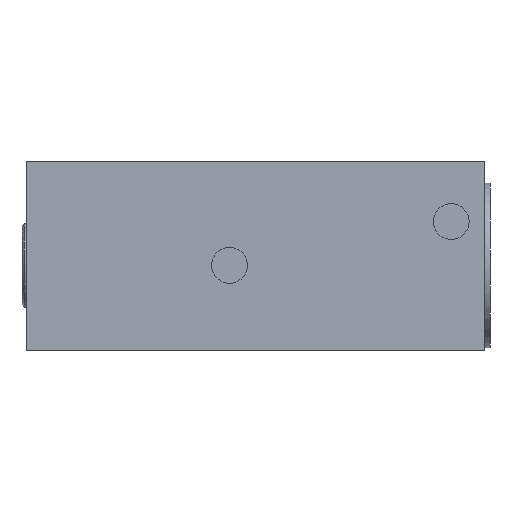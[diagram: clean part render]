
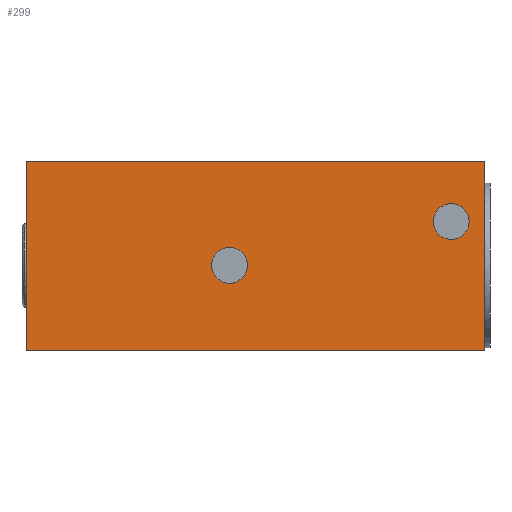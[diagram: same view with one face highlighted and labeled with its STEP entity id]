
A CAD part, left-side view. The second image highlights one B-rep face of the part: STEP entity #299.
In plain terms, the highlighted planar face has unit normal (-1, 0, 0).
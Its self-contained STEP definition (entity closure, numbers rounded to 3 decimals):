
#12 = VERTEX_POINT ( 'NONE', #1472 ) ;
#123 = VERTEX_POINT ( 'NONE', #1635 ) ;
#134 = VERTEX_POINT ( 'NONE', #1675 ) ;
#166 = EDGE_CURVE ( 'NONE', #123, #12, #1686, .T. ) ;
#178 = EDGE_CURVE ( 'NONE', #134, #183, #1724, .T. ) ;
#183 = VERTEX_POINT ( 'NONE', #1718 ) ;
#293 = ORIENTED_EDGE ( 'NONE', *, *, #166, .T. ) ;
#295 = ORIENTED_EDGE ( 'NONE', *, *, #369, .T. ) ;
#296 = EDGE_LOOP ( 'NONE', ( #368, #367 ) ) ;
#297 = EDGE_CURVE ( 'NONE', #123, #134, #1953, .T. ) ;
#299 = ADVANCED_FACE ( 'NONE', ( #1939, #1938, #1937 ), #1936, .F. ) ;
#300 = EDGE_LOOP ( 'NONE', ( #373, #370 ) ) ;
#302 = ORIENTED_EDGE ( 'NONE', *, *, #178, .F. ) ;
#303 = ORIENTED_EDGE ( 'NONE', *, *, #297, .F. ) ;
#304 = EDGE_CURVE ( 'NONE', #964, #961, #1992, .T. ) ;
#305 = EDGE_LOOP ( 'NONE', ( #295, #302, #303, #293 ) ) ;
#367 = ORIENTED_EDGE ( 'NONE', *, *, #963, .F. ) ;
#368 = ORIENTED_EDGE ( 'NONE', *, *, #304, .F. ) ;
#369 = EDGE_CURVE ( 'NONE', #12, #183, #2084, .T. ) ;
#370 = ORIENTED_EDGE ( 'NONE', *, *, #795, .F. ) ;
#372 = EDGE_CURVE ( 'NONE', #787, #975, #2080, .T. ) ;
#373 = ORIENTED_EDGE ( 'NONE', *, *, #372, .F. ) ;
#787 = VERTEX_POINT ( 'NONE', #2801 ) ;
#795 = EDGE_CURVE ( 'NONE', #975, #787, #2786, .T. ) ;
#961 = VERTEX_POINT ( 'NONE', #3134 ) ;
#963 = EDGE_CURVE ( 'NONE', #961, #964, #3133, .T. ) ;
#964 = VERTEX_POINT ( 'NONE', #3128 ) ;
#975 = VERTEX_POINT ( 'NONE', #3170 ) ;
#1472 = CARTESIAN_POINT ( 'NONE',  ( 0., 110., 0. ) ) ;
#1635 = CARTESIAN_POINT ( 'NONE',  ( 0., 110., 45.5 ) ) ;
#1675 = CARTESIAN_POINT ( 'NONE',  ( 0., 0., 45.5 ) ) ;
#1683 = DIRECTION ( 'NONE',  ( 0., 0., -1. ) ) ;
#1684 = VECTOR ( 'NONE', #1683, 1000. ) ;
#1685 = CARTESIAN_POINT ( 'NONE',  ( 0., 110., 45.5 ) ) ;
#1686 = LINE ( 'NONE', #1685, #1684 ) ;
#1718 = CARTESIAN_POINT ( 'NONE',  ( 0., 0., 0. ) ) ;
#1721 = DIRECTION ( 'NONE',  ( 0., 0., -1. ) ) ;
#1722 = VECTOR ( 'NONE', #1721, 1000. ) ;
#1723 = CARTESIAN_POINT ( 'NONE',  ( 0., 0., 45.5 ) ) ;
#1724 = LINE ( 'NONE', #1723, #1722 ) ;
#1933 = DIRECTION ( 'NONE',  ( 1., 0., 0. ) ) ;
#1934 = CARTESIAN_POINT ( 'NONE',  ( 0., 0., 45.5 ) ) ;
#1935 = AXIS2_PLACEMENT_3D ( 'NONE', #1934, #1933, #1998 ) ;
#1936 = PLANE ( 'NONE',  #1935 ) ;
#1937 = FACE_OUTER_BOUND ( 'NONE', #305, .T. ) ;
#1938 = FACE_BOUND ( 'NONE', #300, .T. ) ;
#1939 = FACE_BOUND ( 'NONE', #296, .T. ) ;
#1950 = DIRECTION ( 'NONE',  ( 0., -1., 0. ) ) ;
#1951 = VECTOR ( 'NONE', #1950, 1000. ) ;
#1952 = CARTESIAN_POINT ( 'NONE',  ( 0., 0., 45.5 ) ) ;
#1953 = LINE ( 'NONE', #1952, #1951 ) ;
#1988 = DIRECTION ( 'NONE',  ( 0., 0., 1. ) ) ;
#1989 = DIRECTION ( 'NONE',  ( -1., 0., 0. ) ) ;
#1990 = CARTESIAN_POINT ( 'NONE',  ( 0., 61.2, 20.5 ) ) ;
#1991 = AXIS2_PLACEMENT_3D ( 'NONE', #1990, #1989, #1988 ) ;
#1992 = CIRCLE ( 'NONE', #1991, 4.3 ) ;
#1998 = DIRECTION ( 'NONE',  ( 0., 0., -1. ) ) ;
#2076 = DIRECTION ( 'NONE',  ( 0., 0., 1. ) ) ;
#2077 = DIRECTION ( 'NONE',  ( -1., 0., 0. ) ) ;
#2078 = CARTESIAN_POINT ( 'NONE',  ( 0., 8., 31. ) ) ;
#2079 = AXIS2_PLACEMENT_3D ( 'NONE', #2078, #2077, #2076 ) ;
#2080 = CIRCLE ( 'NONE', #2079, 4.3 ) ;
#2081 = DIRECTION ( 'NONE',  ( 0., -1., 0. ) ) ;
#2082 = VECTOR ( 'NONE', #2081, 1000. ) ;
#2083 = CARTESIAN_POINT ( 'NONE',  ( 0., 0., 0. ) ) ;
#2084 = LINE ( 'NONE', #2083, #2082 ) ;
#2782 = DIRECTION ( 'NONE',  ( 0., 0., 1. ) ) ;
#2783 = DIRECTION ( 'NONE',  ( -1., 0., 0. ) ) ;
#2784 = CARTESIAN_POINT ( 'NONE',  ( 0., 8., 31. ) ) ;
#2785 = AXIS2_PLACEMENT_3D ( 'NONE', #2784, #2783, #2782 ) ;
#2786 = CIRCLE ( 'NONE', #2785, 4.3 ) ;
#2801 = CARTESIAN_POINT ( 'NONE',  ( 0., 8., 35.3 ) ) ;
#3128 = CARTESIAN_POINT ( 'NONE',  ( 0., 61.2, 24.8 ) ) ;
#3129 = DIRECTION ( 'NONE',  ( 0., 0., 1. ) ) ;
#3130 = DIRECTION ( 'NONE',  ( -1., 0., 0. ) ) ;
#3131 = CARTESIAN_POINT ( 'NONE',  ( 0., 61.2, 20.5 ) ) ;
#3132 = AXIS2_PLACEMENT_3D ( 'NONE', #3131, #3130, #3129 ) ;
#3133 = CIRCLE ( 'NONE', #3132, 4.3 ) ;
#3134 = CARTESIAN_POINT ( 'NONE',  ( 0., 61.2, 16.2 ) ) ;
#3170 = CARTESIAN_POINT ( 'NONE',  ( 0., 8., 26.7 ) ) ;
